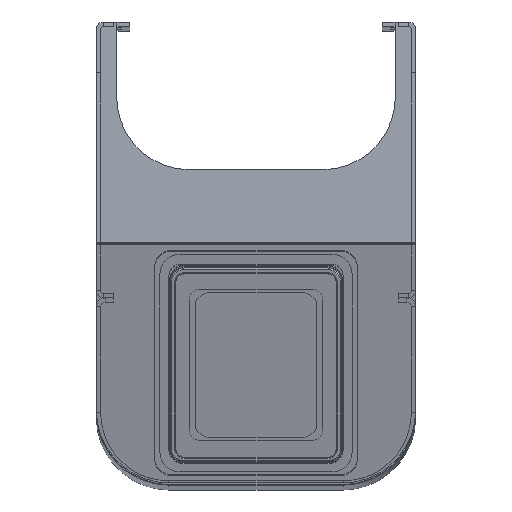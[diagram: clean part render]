
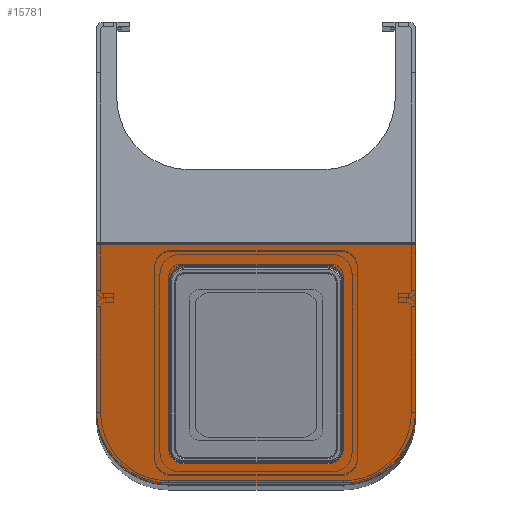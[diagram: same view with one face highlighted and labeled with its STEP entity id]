
A CAD part, top view. The second image highlights one B-rep face of the part: STEP entity #15781.
In plain terms, the highlighted planar face has unit normal (0, -0.259, 0.966) as drawn and (0, 0.966, -0.259) by its records, which use the part's own axes.
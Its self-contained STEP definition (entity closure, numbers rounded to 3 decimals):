
#370=ELLIPSE('',#18974,25.882,25.);
#371=ELLIPSE('',#18975,25.882,25.);
#740=CIRCLE('',#18970,5.);
#741=CIRCLE('',#18971,5.);
#742=CIRCLE('',#18972,5.);
#743=CIRCLE('',#18973,5.);
#1975=ORIENTED_EDGE('',*,*,#6077,.T.);
#1976=ORIENTED_EDGE('',*,*,#6078,.T.);
#1977=ORIENTED_EDGE('',*,*,#6079,.T.);
#1978=ORIENTED_EDGE('',*,*,#6080,.T.);
#1979=ORIENTED_EDGE('',*,*,#6081,.T.);
#1980=ORIENTED_EDGE('',*,*,#6082,.T.);
#1981=ORIENTED_EDGE('',*,*,#6083,.T.);
#1982=ORIENTED_EDGE('',*,*,#6084,.T.);
#1983=ORIENTED_EDGE('',*,*,#6085,.F.);
#1984=ORIENTED_EDGE('',*,*,#6086,.F.);
#1985=ORIENTED_EDGE('',*,*,#6087,.T.);
#1986=ORIENTED_EDGE('',*,*,#6088,.T.);
#1987=ORIENTED_EDGE('',*,*,#6089,.T.);
#1988=ORIENTED_EDGE('',*,*,#6090,.F.);
#6077=EDGE_CURVE('',#8187,#8188,#9690,.T.);
#6078=EDGE_CURVE('',#8188,#8189,#740,.T.);
#6079=EDGE_CURVE('',#8189,#8190,#9691,.T.);
#6080=EDGE_CURVE('',#8190,#8191,#741,.T.);
#6081=EDGE_CURVE('',#8191,#8192,#9692,.T.);
#6082=EDGE_CURVE('',#8192,#8193,#742,.T.);
#6083=EDGE_CURVE('',#8193,#8194,#9693,.T.);
#6084=EDGE_CURVE('',#8194,#8187,#743,.T.);
#6085=EDGE_CURVE('',#8195,#8196,#370,.T.);
#6086=EDGE_CURVE('',#8197,#8195,#9694,.T.);
#6087=EDGE_CURVE('',#8197,#8198,#9695,.T.);
#6088=EDGE_CURVE('',#8198,#8199,#9696,.T.);
#6089=EDGE_CURVE('',#8199,#8200,#371,.T.);
#6090=EDGE_CURVE('',#8196,#8200,#9697,.T.);
#8187=VERTEX_POINT('',#26150);
#8188=VERTEX_POINT('',#26151);
#8189=VERTEX_POINT('',#26153);
#8190=VERTEX_POINT('',#26155);
#8191=VERTEX_POINT('',#26157);
#8192=VERTEX_POINT('',#26159);
#8193=VERTEX_POINT('',#26161);
#8194=VERTEX_POINT('',#26163);
#8195=VERTEX_POINT('',#26166);
#8196=VERTEX_POINT('',#26167);
#8197=VERTEX_POINT('',#26169);
#8198=VERTEX_POINT('',#26171);
#8199=VERTEX_POINT('',#26173);
#8200=VERTEX_POINT('',#26175);
#9690=LINE('',#26149,#11040);
#9691=LINE('',#26154,#11041);
#9692=LINE('',#26158,#11042);
#9693=LINE('',#26162,#11043);
#9694=LINE('',#26168,#11044);
#9695=LINE('',#26170,#11045);
#9696=LINE('',#26172,#11046);
#9697=LINE('',#26176,#11047);
#11040=VECTOR('',#21195,1000.);
#11041=VECTOR('',#21198,1000.);
#11042=VECTOR('',#21201,1000.);
#11043=VECTOR('',#21204,1000.);
#11044=VECTOR('',#21209,1000.);
#11045=VECTOR('',#21210,1000.);
#11046=VECTOR('',#21211,1000.);
#11047=VECTOR('',#21214,1000.);
#12392=EDGE_LOOP('',(#1975,#1976,#1977,#1978,#1979,#1980,#1981,#1982));
#12393=EDGE_LOOP('',(#1983,#1984,#1985,#1986,#1987,#1988));
#13805=FACE_BOUND('',#12392,.T.);
#13806=FACE_BOUND('',#12393,.T.);
#15077=PLANE('',#18969);
#15781=ADVANCED_FACE('',(#13805,#13806),#15077,.F.);
#18969=AXIS2_PLACEMENT_3D('',#26148,#21193,#21194);
#18970=AXIS2_PLACEMENT_3D('',#26152,#21196,#21197);
#18971=AXIS2_PLACEMENT_3D('',#26156,#21199,#21200);
#18972=AXIS2_PLACEMENT_3D('',#26160,#21202,#21203);
#18973=AXIS2_PLACEMENT_3D('',#26164,#21205,#21206);
#18974=AXIS2_PLACEMENT_3D('',#26165,#21207,#21208);
#18975=AXIS2_PLACEMENT_3D('',#26174,#21212,#21213);
#21193=DIRECTION('',(0.,-0.966,0.259));
#21194=DIRECTION('',(0.,-0.259,-0.966));
#21195=DIRECTION('',(0.,-0.259,-0.966));
#21196=DIRECTION('',(0.,-0.966,0.259));
#21197=DIRECTION('',(0.,-0.259,-0.966));
#21198=DIRECTION('',(1.,0.,0.));
#21199=DIRECTION('',(0.,-0.966,0.259));
#21200=DIRECTION('',(0.,-0.259,-0.966));
#21201=DIRECTION('',(0.,0.259,0.966));
#21202=DIRECTION('',(0.,-0.966,0.259));
#21203=DIRECTION('',(0.,-0.259,-0.966));
#21204=DIRECTION('',(-1.,0.,0.));
#21205=DIRECTION('',(0.,-0.966,0.259));
#21206=DIRECTION('',(0.,-0.259,-0.966));
#21207=DIRECTION('',(0.,-0.966,0.259));
#21208=DIRECTION('',(0.,-0.259,-0.966));
#21209=DIRECTION('',(0.,-0.259,-0.966));
#21210=DIRECTION('',(1.,0.,0.));
#21211=DIRECTION('',(0.,-0.259,-0.966));
#21212=DIRECTION('',(0.,0.966,-0.259));
#21213=DIRECTION('',(0.,-0.259,-0.966));
#21214=DIRECTION('',(1.,0.,0.));
#26148=CARTESIAN_POINT('',(-55.,-2.898,-79.224));
#26149=CARTESIAN_POINT('',(-29.75,-5.486,-88.883));
#26150=CARTESIAN_POINT('',(-29.75,-1.508,-74.038));
#26151=CARTESIAN_POINT('',(-29.75,-17.037,-131.994));
#26152=CARTESIAN_POINT('',(-24.75,-17.037,-131.994));
#26153=CARTESIAN_POINT('',(-24.75,-18.332,-136.823));
#26154=CARTESIAN_POINT('',(-55.,-18.332,-136.823));
#26155=CARTESIAN_POINT('',(24.75,-18.332,-136.823));
#26156=CARTESIAN_POINT('',(24.75,-17.037,-131.994));
#26157=CARTESIAN_POINT('',(29.75,-17.037,-131.994));
#26158=CARTESIAN_POINT('',(29.75,-5.486,-88.883));
#26159=CARTESIAN_POINT('',(29.75,-1.508,-74.038));
#26160=CARTESIAN_POINT('',(24.75,-1.508,-74.038));
#26161=CARTESIAN_POINT('',(24.75,-0.214,-69.208));
#26162=CARTESIAN_POINT('',(-55.,-0.214,-69.208));
#26163=CARTESIAN_POINT('',(-24.75,-0.214,-69.208));
#26164=CARTESIAN_POINT('',(-24.75,-1.508,-74.038));
#26165=CARTESIAN_POINT('',(-30.,-13.52,-118.866));
#26166=CARTESIAN_POINT('',(-55.,-13.52,-118.866));
#26167=CARTESIAN_POINT('',(-30.351,-20.218,-143.863));
#26168=CARTESIAN_POINT('',(-55.,-2.898,-79.224));
#26169=CARTESIAN_POINT('',(-55.,1.881,-61.39));
#26170=CARTESIAN_POINT('',(-55.,1.881,-61.39));
#26171=CARTESIAN_POINT('',(55.,1.881,-61.39));
#26172=CARTESIAN_POINT('',(55.,-2.932,-79.351));
#26173=CARTESIAN_POINT('',(55.,-13.52,-118.866));
#26174=CARTESIAN_POINT('',(30.,-13.52,-118.866));
#26175=CARTESIAN_POINT('',(30.351,-20.218,-143.863));
#26176=CARTESIAN_POINT('',(-55.,-20.218,-143.863));
